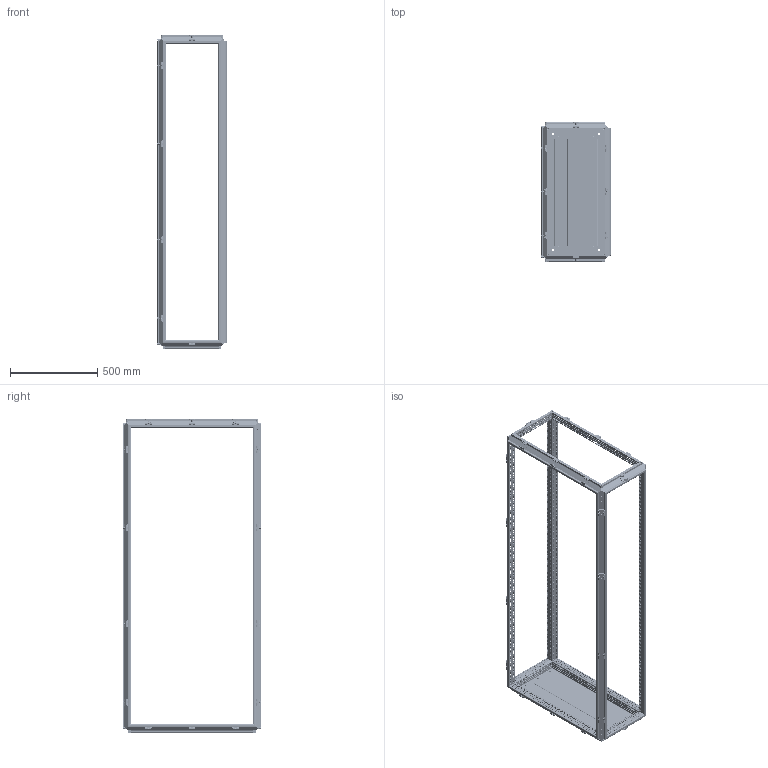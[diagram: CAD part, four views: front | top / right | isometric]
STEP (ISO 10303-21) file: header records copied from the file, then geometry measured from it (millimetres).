
FILE_DESCRIPTION(('STEP AP203'), '1');
FILE_NAME('3000 忺謤僔 捘', '', ('UNSPECIFIED'), ('UNSPECIFIED'), 'C3D Converter', 'C3D Toolkit', '');
FILE_SCHEMA(('CONFIG_CONTROL_DESIGN'));
Length unit declared in the file: millimetre
Products named in the file (12): 3000.180.80.40 СБ; 3000; 3007.175; 3007.75; 3009.04; 3009.04.01; 3009.04.2; 3009.04.01.2
Assembly tree (127 placements, depth 3):
  3000.180.80.40 СБ
    3000
    (unnamed)  x88
    3007.175
    (unnamed)  x6
    3007.75
    3009.04  x8
      3009.04.01
      (unnamed)
      (unnamed)
    3009.04.2  x13
      3009.04.01.2
      (unnamed)
      (unnamed)
Bounding box: 397 x 797 x 1798.5 mm (x, y, z)
Volume: 3319961 mm3; surface area: 4409046.4 mm2
Topology: 210 solids, 210 shells, 15433 faces, 43239 edges, 28536 vertices
Faces by surface type: plane 10779, cylinder 3830, cone 560, torus 228, bspline 36
Full cylindrical faces by diameter (mm): 4.134 x122, 4.5 x1716, 4.8 x6, 5 x130, 5.8 x34, 6.8 x176, 7 x88, 7.5 x42, 8 x88, 9.2 x42, 10.106 x8, 14 x4
Entity records: 351925 total; most frequent: CARTESIAN_POINT 64666, ORIENTED_EDGE 56598, DIRECTION 53599, EDGE_CURVE 28299, LINE 23215, VECTOR 23215, VERTEX_POINT 19918, EDGE_LOOP 19209
